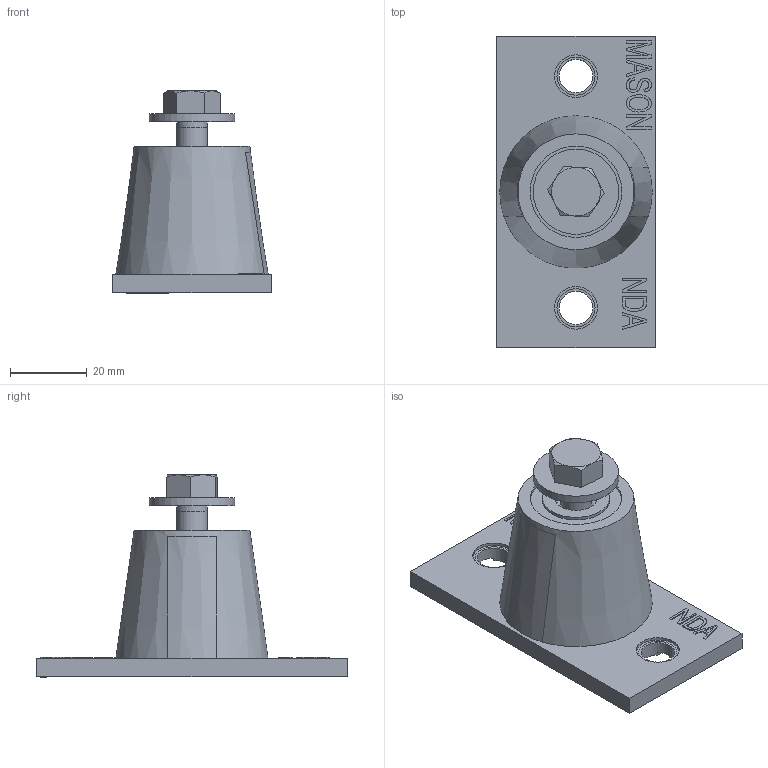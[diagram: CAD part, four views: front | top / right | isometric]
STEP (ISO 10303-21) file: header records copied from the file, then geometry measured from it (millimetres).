
FILE_DESCRIPTION((''),'2;1');
FILE_NAME('C:\2012_Work\Designs\ND\ND-A\A-1008-2 NDA MOUNT_GREEN.stp','2013-09-10T13:23:47',('KShiels'),(''),'Autodesk Inventor 2012','Autodesk Inventor 2012','');
FILE_SCHEMA(('AUTOMOTIVE_DESIGN { 1 0 10303 214 1 1 1 1 }'));
Length unit declared in the file: inch
Products named in the file (6): A-1008-2 NDA MOUNT_GREEN; A-1013-3 NDA BASEPLATE; A-4425 NDA TOP INSERT; A-1008-2 NDA RUBBER_GREEN; ANSI_ASME B18.2.1 - 5_16-18 UNC - 0; ANSI B18.22.1 - 5_16 - wide - Type A_NDA
Assembly tree (5 placements, depth 2):
  A-1008-2 NDA MOUNT_GREEN
    A-1013-3 NDA BASEPLATE
    A-4425 NDA TOP INSERT
    A-1008-2 NDA RUBBER_GREEN
    ANSI_ASME B18.2.1 - 5_16-18 UNC - 0
    ANSI B18.22.1 - 5_16 - wide - Type A_NDA
Bounding box: 41.27 x 80.96 x 52.65 mm (x, y, z)
Volume: 48602.6 mm3; surface area: 21713.7 mm2
Topology: 5 solids, 5 shells, 353 faces, 902 edges, 598 vertices
Faces by surface type: plane 269, bspline 49, cylinder 20, cone 12, torus 3
Full cylindrical faces by diameter (mm): 6.756 x1, 7.938 x1, 8.731 x2, 9.525 x1, 9.922 x2, 9.931 x2, 11.113 x3, 12.7 x2, 17.463 x1, 20.638 x1, 22.225 x3, 23.813 x1
Entity records: 10925 total; most frequent: CARTESIAN_POINT 2569, ORIENTED_EDGE 1734, DIRECTION 1465, EDGE_CURVE 867, VECTOR 671, LINE 671, VERTEX_POINT 590, EDGE_LOOP 435
